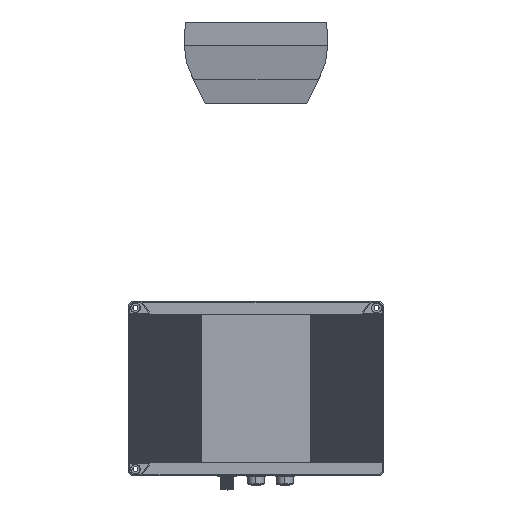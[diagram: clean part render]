
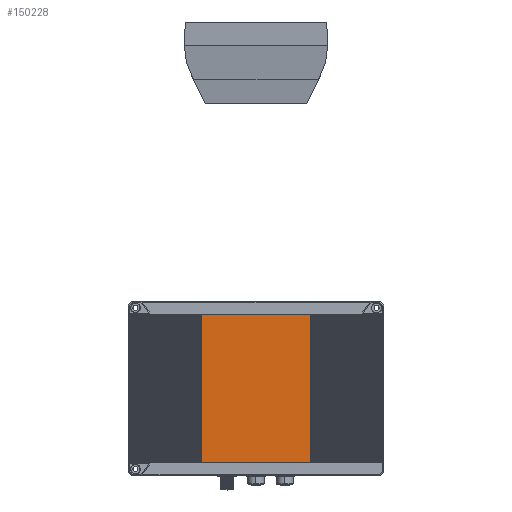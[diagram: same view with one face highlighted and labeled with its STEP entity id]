
A CAD part, top view. The second image highlights one B-rep face of the part: STEP entity #150228.
In plain terms, the highlighted planar face has unit normal (0, 0, 1).
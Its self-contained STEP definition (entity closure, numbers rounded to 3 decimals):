
#43065=DIRECTION('',(0.,-1.,0.));
#43066=VECTOR('',#43065,128.);
#43067=CARTESIAN_POINT('',(157.1,128.,-0.02));
#43068=LINE('',#43067,#43066);
#72090=DIRECTION('',(0.,-1.,0.));
#72091=VECTOR('',#72090,128.);
#72092=CARTESIAN_POINT('',(62.9,128.,-0.02));
#72093=LINE('',#72092,#72091);
#72097=DIRECTION('',(-1.,0.,0.));
#72098=VECTOR('',#72097,94.2);
#72099=CARTESIAN_POINT('',(157.1,128.,-0.02));
#72100=LINE('',#72099,#72098);
#72104=DIRECTION('',(1.,0.,0.));
#72105=VECTOR('',#72104,94.2);
#72106=CARTESIAN_POINT('',(62.9,0.,
-0.02));
#72107=LINE('',#72106,#72105);
#81285=CARTESIAN_POINT('',(62.9,0.,
-0.02));
#81286=VERTEX_POINT('',#81285);
#81287=CARTESIAN_POINT('',(62.9,128.,-0.02));
#81288=VERTEX_POINT('',#81287);
#81291=CARTESIAN_POINT('',(157.1,128.,-0.02));
#81292=VERTEX_POINT('',#81291);
#84025=CARTESIAN_POINT('',(157.1,0.,
-0.02));
#84026=VERTEX_POINT('',#84025);
#150217=CARTESIAN_POINT('',(110.,64.,-0.02));
#150218=DIRECTION('',(0.,0.,1.));
#150219=DIRECTION('',(1.,0.,0.));
#150220=AXIS2_PLACEMENT_3D('',#150217,#150218,#150219);
#150221=PLANE('',#150220);
#150222=ORIENTED_EDGE('',*,*,#117030,.F.);
#150223=ORIENTED_EDGE('',*,*,#120083,.F.);
#150224=ORIENTED_EDGE('',*,*,#120097,.T.);
#150225=ORIENTED_EDGE('',*,*,#117014,.F.);
#150226=EDGE_LOOP('',(#150222,#150223,#150224,#150225));
#150227=FACE_OUTER_BOUND('',#150226,.F.);
#117014=EDGE_CURVE('',#81286,#84026,#72107,.T.);
#117030=EDGE_CURVE('',#81288,#81286,#72093,.T.);
#120083=EDGE_CURVE('',#81292,#81288,#72100,.T.);
#120097=EDGE_CURVE('',#81292,#84026,#43068,.T.);
#150228=ADVANCED_FACE('',(#150227),#150221,.T.);
